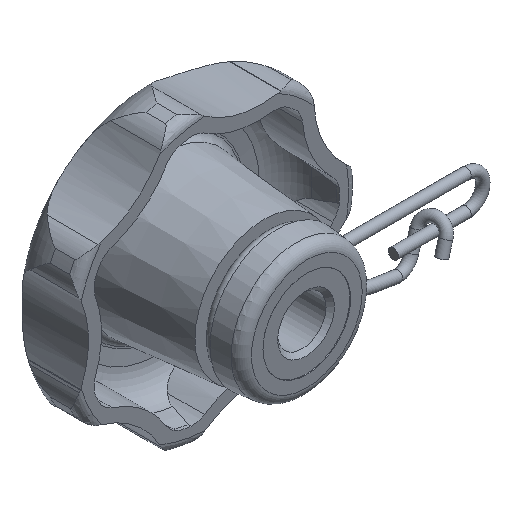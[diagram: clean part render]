
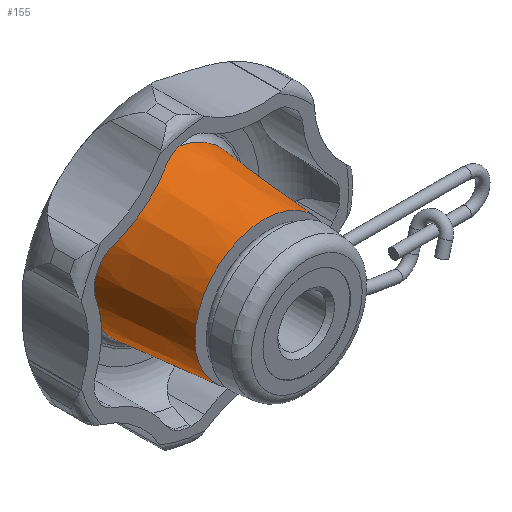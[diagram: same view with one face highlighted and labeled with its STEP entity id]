
A CAD part, isometric view. The second image highlights one B-rep face of the part: STEP entity #155.
In plain terms, the highlighted conical face has half-angle 5 degrees and reference radius 10.661 mm.
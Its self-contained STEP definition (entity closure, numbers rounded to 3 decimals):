
#155 = ADVANCED_FACE( '', ( #378, #379 ), #380, .T. );
#378 = FACE_BOUND( '', #642, .T. );
#379 = FACE_OUTER_BOUND( '', #643, .T. );
#380 = CONICAL_SURFACE( '', #644, 10.661, 0.087 );
#642 = EDGE_LOOP( '', ( #1325 ) );
#643 = EDGE_LOOP( '', ( #1326 ) );
#644 = AXIS2_PLACEMENT_3D( '', #1327, #1328, #1329 );
#1325 = ORIENTED_EDGE( '', *, *, #1888, .F. );
#1326 = ORIENTED_EDGE( '', *, *, #1889, .T. );
#1327 = CARTESIAN_POINT( '', ( 0., 19.465, 0. ) );
#1328 = DIRECTION( '', ( 0., 1., 0. ) );
#1329 = DIRECTION( '', ( 0., 0., 1. ) );
#1888 = EDGE_CURVE( '', #2365, #2365, #2366, .T. );
#1889 = EDGE_CURVE( '', #2367, #2367, #2368, .T. );
#2365 = VERTEX_POINT( '', #3840 );
#2366 = CIRCLE( '', #3841, 9.474 );
#2367 = VERTEX_POINT( '', #3842 );
#2368 = CIRCLE( '', #3843, 10.661 );
#3840 = CARTESIAN_POINT( '', ( 0., 5.9, -9.474 ) );
#3841 = AXIS2_PLACEMENT_3D( '', #4194, #4195, #4196 );
#3842 = CARTESIAN_POINT( '', ( 0., 19.465, -10.661 ) );
#3843 = AXIS2_PLACEMENT_3D( '', #4197, #4198, #4199 );
#4194 = CARTESIAN_POINT( '', ( 0., 5.9, 0. ) );
#4195 = DIRECTION( '', ( 0., -1., 0. ) );
#4196 = DIRECTION( '', ( 0., 0., -1. ) );
#4197 = CARTESIAN_POINT( '', ( 0., 19.465, 0. ) );
#4198 = DIRECTION( '', ( 0., -1., 0. ) );
#4199 = DIRECTION( '', ( 0., 0., -1. ) );
